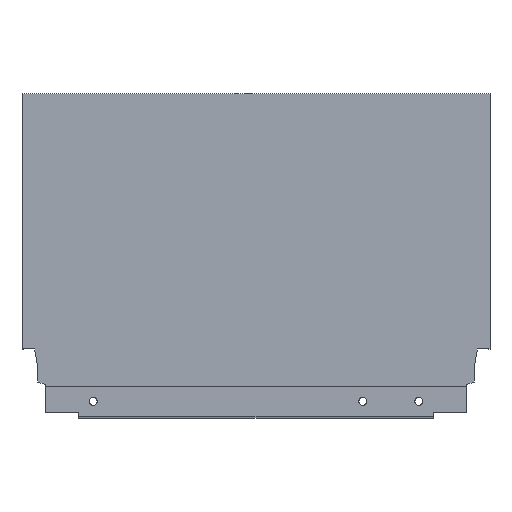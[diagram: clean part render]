
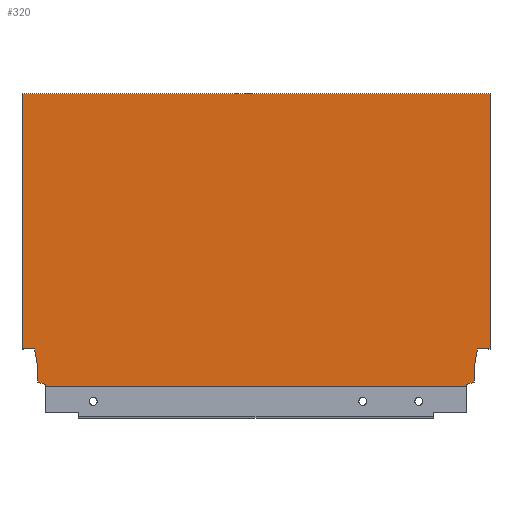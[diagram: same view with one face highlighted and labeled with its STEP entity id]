
A CAD part, top view. The second image highlights one B-rep face of the part: STEP entity #320.
In plain terms, the highlighted planar face has unit normal (0, 0, 1).
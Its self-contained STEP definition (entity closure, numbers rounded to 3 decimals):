
#13 = EDGE_CURVE ( 'NONE', #1229, #1265, #550, .T. ) ;
#15 = EDGE_CURVE ( 'NONE', #1230, #1221, #498, .T. ) ;
#16 = EDGE_CURVE ( 'NONE', #1297, #1229, #496, .T. ) ;
#18 = EDGE_CURVE ( 'NONE', #1265, #1230, #492, .T. ) ;
#19 = EDGE_CURVE ( 'NONE', #1214, #1223, #490, .T. ) ;
#20 = EDGE_CURVE ( 'NONE', #1223, #1234, #488, .T. ) ;
#22 = EDGE_CURVE ( 'NONE', #1243, #1309, #479, .T. ) ;
#65 = EDGE_CURVE ( 'NONE', #1225, #1232, #372, .T. ) ;
#67 = EDGE_CURVE ( 'NONE', #1309, #1232, #365, .T. ) ;
#72 = EDGE_CURVE ( 'NONE', #1234, #1295, #356, .T. ) ;
#97 = AXIS2_PLACEMENT_3D ( 'NONE', #1168, #1198, #1488 ) ;
#138 = EDGE_CURVE ( 'NONE', #1225, #1297, #566, .T. ) ;
#140 = EDGE_CURVE ( 'NONE', #1295, #1282, #430, .T. ) ;
#141 = EDGE_CURVE ( 'NONE', #1282, #1243, #705, .T. ) ;
#166 = EDGE_CURVE ( 'NONE', #1214, #1221, #751, .T. ) ;
#320 = ADVANCED_FACE ( 'NONE', ( #723 ), #1170, .T. ) ;
#355 = VECTOR ( 'NONE', #1051, 1000. ) ;
#356 = LINE ( 'NONE', #1053, #355 ) ;
#364 = VECTOR ( 'NONE', #1048, 1000. ) ;
#365 = LINE ( 'NONE', #1041, #364 ) ;
#372 = LINE ( 'NONE', #1044, #374 ) ;
#374 = VECTOR ( 'NONE', #1038, 1000. ) ;
#430 = LINE ( 'NONE', #1078, #443 ) ;
#443 = VECTOR ( 'NONE', #1079, 1000. ) ;
#478 = VECTOR ( 'NONE', #1004, 1000. ) ;
#479 = LINE ( 'NONE', #1005, #478 ) ;
#483 = VECTOR ( 'NONE', #1008, 1000. ) ;
#485 = VECTOR ( 'NONE', #1013, 1000. ) ;
#487 = VECTOR ( 'NONE', #1015, 1000. ) ;
#488 = LINE ( 'NONE', #1014, #483 ) ;
#490 = LINE ( 'NONE', #1016, #485 ) ;
#491 = VECTOR ( 'NONE', #1020, 1000. ) ;
#492 = LINE ( 'NONE', #1018, #487 ) ;
#493 = VECTOR ( 'NONE', #1022, 1000. ) ;
#496 = LINE ( 'NONE', #1064, #491 ) ;
#497 = VECTOR ( 'NONE', #1172, 1000. ) ;
#498 = LINE ( 'NONE', #1171, #493 ) ;
#532 = EDGE_LOOP ( 'NONE', ( #1521, #1522, #1523, #1527, #1528, #1529, #1531, #1539, #1540, #1537, #1513, #1538, #1534, #1535 ) ) ;
#550 = LINE ( 'NONE', #1183, #497 ) ;
#565 = VECTOR ( 'NONE', #1112, 1000. ) ;
#566 = LINE ( 'NONE', #1111, #565 ) ;
#583 = CARTESIAN_POINT ( 'NONE',  ( -263., 164.7, 7.5 ) ) ;
#584 = CARTESIAN_POINT ( 'NONE',  ( -249.996, 1.146, 7.5 ) ) ;
#586 = CARTESIAN_POINT ( 'NONE',  ( -7.06, 21.2, 7.5 ) ) ;
#602 = CARTESIAN_POINT ( 'NONE',  ( -8.9, 10.765, 7.5 ) ) ;
#608 = CARTESIAN_POINT ( 'NONE',  ( -254.1, 10.765, 7.5 ) ) ;
#628 = CARTESIAN_POINT ( 'NONE',  ( -8.9, 2.64, 7.5 ) ) ;
#639 = CARTESIAN_POINT ( 'NONE',  ( 0., 21.2, 7.5 ) ) ;
#641 = CARTESIAN_POINT ( 'NONE',  ( -13.004, 0., 7.5 ) ) ;
#644 = CARTESIAN_POINT ( 'NONE',  ( -255.94, 21.2, 7.5 ) ) ;
#645 = CARTESIAN_POINT ( 'NONE',  ( -254.1, 2.64, 7.5 ) ) ;
#649 = CARTESIAN_POINT ( 'NONE',  ( -249.996, 0., 7.5 ) ) ;
#651 = CARTESIAN_POINT ( 'NONE',  ( 0., 164.7, 7.5 ) ) ;
#653 = CARTESIAN_POINT ( 'NONE',  ( -263., 21.2, 7.5 ) ) ;
#705 = LINE ( 'NONE', #1076, #706 ) ;
#706 = VECTOR ( 'NONE', #1077, 1000. ) ;
#723 = FACE_OUTER_BOUND ( 'NONE', #532, .T. ) ;
#751 = LINE ( 'NONE', #1124, #752 ) ;
#752 = VECTOR ( 'NONE', #1125, 1000. ) ;
#935 = CARTESIAN_POINT ( 'NONE',  ( -13.004, 1.146, 7.5 ) ) ;
#1004 = DIRECTION ( 'NONE',  ( -0.94, -0.342, 0. ) ) ;
#1005 = CARTESIAN_POINT ( 'NONE',  ( -8.9, 2.64, 7.5 ) ) ;
#1008 = DIRECTION ( 'NONE',  ( 0., -1., 0. ) ) ;
#1013 = DIRECTION ( 'NONE',  ( 1., 0., 0. ) ) ;
#1014 = CARTESIAN_POINT ( 'NONE',  ( 0., 0., 7.5 ) ) ;
#1015 = DIRECTION ( 'NONE',  ( -0.174, 0.985, 0. ) ) ;
#1016 = CARTESIAN_POINT ( 'NONE',  ( -263., 164.7, 7.5 ) ) ;
#1018 = CARTESIAN_POINT ( 'NONE',  ( -255.94, 21.2, 7.5 ) ) ;
#1020 = DIRECTION ( 'NONE',  ( -0.94, 0.342, 0. ) ) ;
#1022 = DIRECTION ( 'NONE',  ( -1., 0., 0. ) ) ;
#1038 = DIRECTION ( 'NONE',  ( 1., 0., 0. ) ) ;
#1041 = CARTESIAN_POINT ( 'NONE',  ( -13.004, 1.146, 7.5 ) ) ;
#1044 = CARTESIAN_POINT ( 'NONE',  ( -263., 0., 7.5 ) ) ;
#1048 = DIRECTION ( 'NONE',  ( 0., -1., 0. ) ) ;
#1051 = DIRECTION ( 'NONE',  ( -1., 0., 0. ) ) ;
#1053 = CARTESIAN_POINT ( 'NONE',  ( 0., 21.2, 7.5 ) ) ;
#1064 = CARTESIAN_POINT ( 'NONE',  ( -254.1, 2.64, 7.5 ) ) ;
#1076 = CARTESIAN_POINT ( 'NONE',  ( -8.9, 10.765, 7.5 ) ) ;
#1077 = DIRECTION ( 'NONE',  ( 0., -1., 0. ) ) ;
#1078 = CARTESIAN_POINT ( 'NONE',  ( -7.06, 21.2, 7.5 ) ) ;
#1079 = DIRECTION ( 'NONE',  ( -0.174, -0.985, 0. ) ) ;
#1111 = CARTESIAN_POINT ( 'NONE',  ( -249.996, 1.146, 7.5 ) ) ;
#1112 = DIRECTION ( 'NONE',  ( 0., 1., 0. ) ) ;
#1124 = CARTESIAN_POINT ( 'NONE',  ( -263., 0., 7.5 ) ) ;
#1125 = DIRECTION ( 'NONE',  ( 0., -1., 0. ) ) ;
#1168 = CARTESIAN_POINT ( 'NONE',  ( -263., 0., 7.5 ) ) ;
#1170 = PLANE ( 'NONE',  #97 ) ;
#1171 = CARTESIAN_POINT ( 'NONE',  ( -268., 21.2, 7.5 ) ) ;
#1172 = DIRECTION ( 'NONE',  ( 0., 1., 0. ) ) ;
#1183 = CARTESIAN_POINT ( 'NONE',  ( -254.1, 10.765, 7.5 ) ) ;
#1198 = DIRECTION ( 'NONE',  ( 0., 0., 1. ) ) ;
#1214 = VERTEX_POINT ( 'NONE', #583 ) ;
#1221 = VERTEX_POINT ( 'NONE', #653 ) ;
#1223 = VERTEX_POINT ( 'NONE', #651 ) ;
#1225 = VERTEX_POINT ( 'NONE', #649 ) ;
#1229 = VERTEX_POINT ( 'NONE', #645 ) ;
#1230 = VERTEX_POINT ( 'NONE', #644 ) ;
#1232 = VERTEX_POINT ( 'NONE', #641 ) ;
#1234 = VERTEX_POINT ( 'NONE', #639 ) ;
#1243 = VERTEX_POINT ( 'NONE', #628 ) ;
#1265 = VERTEX_POINT ( 'NONE', #608 ) ;
#1282 = VERTEX_POINT ( 'NONE', #602 ) ;
#1295 = VERTEX_POINT ( 'NONE', #586 ) ;
#1297 = VERTEX_POINT ( 'NONE', #584 ) ;
#1309 = VERTEX_POINT ( 'NONE', #935 ) ;
#1488 = DIRECTION ( 'NONE',  ( 1., 0., 0. ) ) ;
#1513 = ORIENTED_EDGE ( 'NONE', *, *, #140, .F. ) ;
#1521 = ORIENTED_EDGE ( 'NONE', *, *, #166, .T. ) ;
#1522 = ORIENTED_EDGE ( 'NONE', *, *, #15, .F. ) ;
#1523 = ORIENTED_EDGE ( 'NONE', *, *, #18, .F. ) ;
#1527 = ORIENTED_EDGE ( 'NONE', *, *, #13, .F. ) ;
#1528 = ORIENTED_EDGE ( 'NONE', *, *, #16, .F. ) ;
#1529 = ORIENTED_EDGE ( 'NONE', *, *, #138, .F. ) ;
#1531 = ORIENTED_EDGE ( 'NONE', *, *, #65, .T. ) ;
#1534 = ORIENTED_EDGE ( 'NONE', *, *, #20, .F. ) ;
#1535 = ORIENTED_EDGE ( 'NONE', *, *, #19, .F. ) ;
#1537 = ORIENTED_EDGE ( 'NONE', *, *, #141, .F. ) ;
#1538 = ORIENTED_EDGE ( 'NONE', *, *, #72, .F. ) ;
#1539 = ORIENTED_EDGE ( 'NONE', *, *, #67, .F. ) ;
#1540 = ORIENTED_EDGE ( 'NONE', *, *, #22, .F. ) ;
